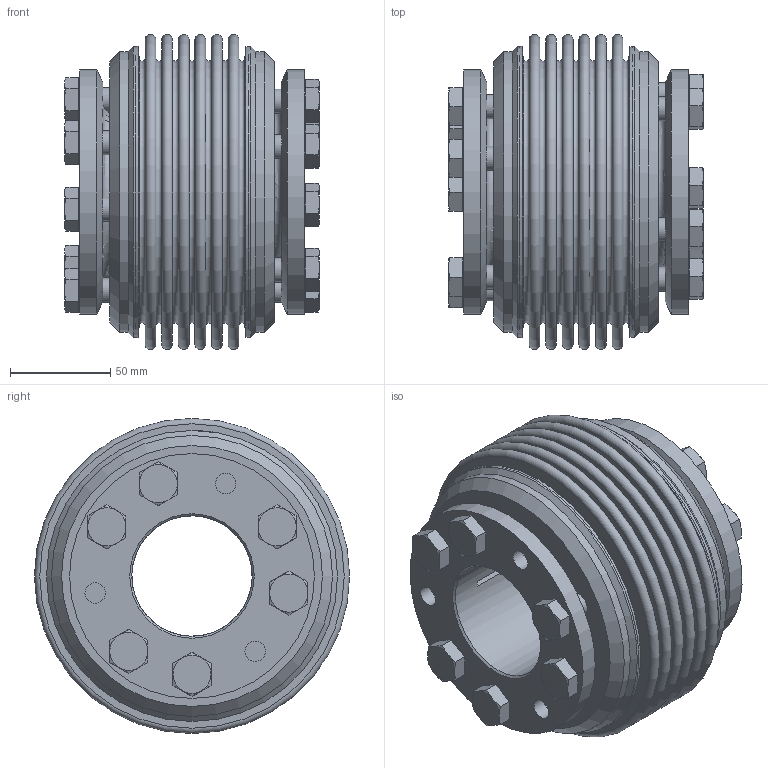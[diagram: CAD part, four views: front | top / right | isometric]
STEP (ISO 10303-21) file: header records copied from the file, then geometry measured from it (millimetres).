
FILE_DESCRIPTION(/* description */ ('Unknown','CAx-IF Rec.Pracs.---Representation and Presentation of Product Manufacturing Information (PMI)---4.0---2014-10-13','CAx-IF Rec.Pracs.---3D Tessellated Geometry---0.4---2014-09-14','2;1'),/* implementation_level */ '2;1');
FILE_NAME(/* name */ 'MB-03124770',/* time_stamp */ '2023-12-13T08:08:54+01:00',/* author */ ('Unknown'),/* organization */ ('Unknown'),/* preprocessor_version */ 'ST-DEVELOPER v18.102',/* originating_system */ 'Solid Edge',/* authorisation */ 'Unknown');
FILE_SCHEMA (('AP242_MANAGED_MODEL_BASED_3D_ENGINEERING_MIM_LF { 1 0 10303 442 1 1 4 }'));
Length unit declared in the file: millimetre
Products named in the file (1): MB-03124770
Bounding box: 127.01 x 157 x 157 mm (x, y, z)
Volume: 984572.3 mm3; surface area: 337381.3 mm2
Topology: 1 solids, 1 shells, 376 faces, 882 edges, 566 vertices
Faces by surface type: plane 176, cone 104, cylinder 66, torus 30
Full cylindrical faces by diameter (mm): 10.106 x12, 10.2 x6, 12 x12, 12.5 x12, 17.2 x12, 60 x2, 79.35 x2, 122 x2, 125 x2, 140 x2, 145 x2
Entity records: 12705 total; most frequent: CARTESIAN_POINT 2306, DIRECTION 1604, ORIENTED_EDGE 1392, AXIS2_PLACEMENT_3D 714, EDGE_CURVE 696, EDGE_LOOP 604, FACE_BOUND 604, VERTEX_POINT 504
